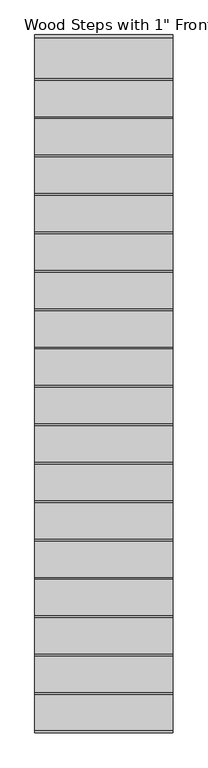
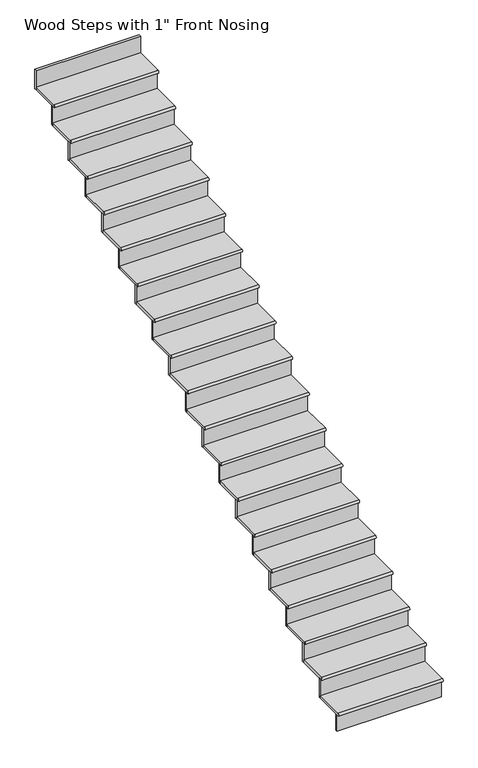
"""IFC4 building model written with IfcOpenShell, lengths in millimetres: stair flight geometry."""

from ifc_helpers import new_model, si_unit, point, frame, frame_2d, origin, place, context, project, spatial, polyline, circle_curve, trimmed, segment, composite_curve, outline, extrude, source, transform, mapped, element, save


def stair_flight_d34ab9c1(model_context):
    return source(origin(), model_context, "Body", "SweptSolid", [
        extrude(outline(composite_curve([segment(polyline([(-5446.3539462, 2025.3157895), (-5179.6539462, 2025.3157895), (-5179.6539462, 1999.9157895), (-5446.3539462, 1999.9157895)]), True, "CONTINUOUS"), segment(trimmed(circle_curve(frame_2d((-5446.3539462, 2012.6157895)), 12.7), [point((-5446.3539462, 1999.9157895))], [point((-5446.3539462, 2025.3157895))], False, "CARTESIAN"), True, "CONTINUOUS")], self_intersect=False)), frame((10889.1370514, 0.0, 0.0), z_axis=(1.0, 0.0, 0.0), x_axis=(0.0, 1.0, 0.0)), (0.0, 0.0, 1.0), 914.4),
        extrude(outline(polyline([(11803.5370514, -5414.6039462), (11803.5370514, -5433.6539462), (10889.1370514, -5433.6539462), (10889.1370514, -5414.6039462), (11803.5370514, -5414.6039462)])), frame((0.0, 0.0, 1847.85), z_axis=(0.0, 0.0, 1.0), x_axis=(1.0, 0.0, 0.0)), (0.0, 0.0, 1.0), 152.0657895),
        extrude(outline(polyline([(11803.5370514, -5160.6039462), (11803.5370514, -5179.6539462), (10889.1370514, -5179.6539462), (10889.1370514, -5160.6039462), (11803.5370514, -5160.6039462)])), frame((0.0, 0.0, 1999.9157895), z_axis=(0.0, 0.0, 1.0), x_axis=(1.0, 0.0, 0.0)), (0.0, 0.0, 1.0), 177.4657895),
        extrude(outline(composite_curve([segment(polyline([(-5192.3539462, 2202.7815789), (-4925.6539462, 2202.7815789), (-4925.6539462, 2177.3815789), (-5192.3539462, 2177.3815789)]), True, "CONTINUOUS"), segment(trimmed(circle_curve(frame_2d((-5192.3539462, 2190.0815789)), 12.7), [point((-5192.3539462, 2177.3815789))], [point((-5192.3539462, 2202.7815789))], False, "CARTESIAN"), True, "CONTINUOUS")], self_intersect=False)), frame((10889.1370514, 0.0, 0.0), z_axis=(1.0, 0.0, 0.0), x_axis=(0.0, 1.0, 0.0)), (0.0, 0.0, 1.0), 914.4),
        extrude(outline(polyline([(11803.5370514, -4906.6039462), (11803.5370514, -4925.6539462), (10889.1370514, -4925.6539462), (10889.1370514, -4906.6039462), (11803.5370514, -4906.6039462)])), frame((0.0, 0.0, 2177.3815789), z_axis=(0.0, 0.0, 1.0), x_axis=(1.0, 0.0, 0.0)), (0.0, 0.0, 1.0), 177.4657895),
        extrude(outline(composite_curve([segment(polyline([(-4938.3539462, 2380.2473684), (-4671.6539462, 2380.2473684), (-4671.6539462, 2354.8473684), (-4938.3539462, 2354.8473684)]), True, "CONTINUOUS"), segment(trimmed(circle_curve(frame_2d((-4938.3539462, 2367.5473684)), 12.7), [point((-4938.3539462, 2354.8473684))], [point((-4938.3539462, 2380.2473684))], False, "CARTESIAN"), True, "CONTINUOUS")], self_intersect=False)), frame((10889.1370514, 0.0, 0.0), z_axis=(1.0, 0.0, 0.0), x_axis=(0.0, 1.0, 0.0)), (0.0, 0.0, 1.0), 914.4),
        extrude(outline(polyline([(11803.5370514, -4652.6039462), (11803.5370514, -4671.6539462), (10889.1370514, -4671.6539462), (10889.1370514, -4652.6039462), (11803.5370514, -4652.6039462)])), frame((0.0, 0.0, 2354.8473684), z_axis=(0.0, 0.0, 1.0), x_axis=(1.0, 0.0, 0.0)), (0.0, 0.0, 1.0), 177.4657895),
        extrude(outline(composite_curve([segment(polyline([(-4684.3539462, 2557.7131579), (-4417.6539462, 2557.7131579), (-4417.6539462, 2532.3131579), (-4684.3539462, 2532.3131579)]), True, "CONTINUOUS"), segment(trimmed(circle_curve(frame_2d((-4684.3539462, 2545.0131579)), 12.7), [point((-4684.3539462, 2532.3131579))], [point((-4684.3539462, 2557.7131579))], False, "CARTESIAN"), True, "CONTINUOUS")], self_intersect=False)), frame((10889.1370514, 0.0, 0.0), z_axis=(1.0, 0.0, 0.0), x_axis=(0.0, 1.0, 0.0)), (0.0, 0.0, 1.0), 914.4),
        extrude(outline(polyline([(11803.5370514, -4398.6039462), (11803.5370514, -4417.6539462), (10889.1370514, -4417.6539462), (10889.1370514, -4398.6039462), (11803.5370514, -4398.6039462)])), frame((0.0, 0.0, 2532.3131579), z_axis=(0.0, 0.0, 1.0), x_axis=(1.0, 0.0, 0.0)), (0.0, 0.0, 1.0), 177.4657895),
        extrude(outline(composite_curve([segment(polyline([(-4430.3539462, 2735.1789474), (-4163.6539462, 2735.1789474), (-4163.6539462, 2709.7789474), (-4430.3539462, 2709.7789474)]), True, "CONTINUOUS"), segment(trimmed(circle_curve(frame_2d((-4430.3539462, 2722.4789474)), 12.7), [point((-4430.3539462, 2709.7789474))], [point((-4430.3539462, 2735.1789474))], False, "CARTESIAN"), True, "CONTINUOUS")], self_intersect=False)), frame((10889.1370514, 0.0, 0.0), z_axis=(1.0, 0.0, 0.0), x_axis=(0.0, 1.0, 0.0)), (0.0, 0.0, 1.0), 914.4),
        extrude(outline(polyline([(11803.5370514, -4144.6039462), (11803.5370514, -4163.6539462), (10889.1370514, -4163.6539462), (10889.1370514, -4144.6039462), (11803.5370514, -4144.6039462)])), frame((0.0, 0.0, 2709.7789474), z_axis=(0.0, 0.0, 1.0), x_axis=(1.0, 0.0, 0.0)), (0.0, 0.0, 1.0), 177.4657895),
        extrude(outline(composite_curve([segment(polyline([(-4176.3539462, 2912.6447368), (-3909.6539462, 2912.6447368), (-3909.6539462, 2887.2447368), (-4176.3539462, 2887.2447368)]), True, "CONTINUOUS"), segment(trimmed(circle_curve(frame_2d((-4176.3539462, 2899.9447368)), 12.7), [point((-4176.3539462, 2887.2447368))], [point((-4176.3539462, 2912.6447368))], False, "CARTESIAN"), True, "CONTINUOUS")], self_intersect=False)), frame((10889.1370514, 0.0, 0.0), z_axis=(1.0, 0.0, 0.0), x_axis=(0.0, 1.0, 0.0)), (0.0, 0.0, 1.0), 914.4),
        extrude(outline(polyline([(11803.5370514, -3890.6039462), (11803.5370514, -3909.6539462), (10889.1370514, -3909.6539462), (10889.1370514, -3890.6039462), (11803.5370514, -3890.6039462)])), frame((0.0, 0.0, 2887.2447368), z_axis=(0.0, 0.0, 1.0), x_axis=(1.0, 0.0, 0.0)), (0.0, 0.0, 1.0), 177.4657895),
        extrude(outline(composite_curve([segment(polyline([(-3922.3539462, 3090.1105263), (-3655.6539462, 3090.1105263), (-3655.6539462, 3064.7105263), (-3922.3539462, 3064.7105263)]), True, "CONTINUOUS"), segment(trimmed(circle_curve(frame_2d((-3922.3539462, 3077.4105263)), 12.7), [point((-3922.3539462, 3064.7105263))], [point((-3922.3539462, 3090.1105263))], False, "CARTESIAN"), True, "CONTINUOUS")], self_intersect=False)), frame((10889.1370514, 0.0, 0.0), z_axis=(1.0, 0.0, 0.0), x_axis=(0.0, 1.0, 0.0)), (0.0, 0.0, 1.0), 914.4),
        extrude(outline(polyline([(11803.5370514, -3636.6039462), (11803.5370514, -3655.6539462), (10889.1370514, -3655.6539462), (10889.1370514, -3636.6039462), (11803.5370514, -3636.6039462)])), frame((0.0, 0.0, 3064.7105263), z_axis=(0.0, 0.0, 1.0), x_axis=(1.0, 0.0, 0.0)), (0.0, 0.0, 1.0), 177.4657895),
        extrude(outline(composite_curve([segment(polyline([(-3668.3539462, 3267.5763158), (-3401.6539462, 3267.5763158), (-3401.6539462, 3242.1763158), (-3668.3539462, 3242.1763158)]), True, "CONTINUOUS"), segment(trimmed(circle_curve(frame_2d((-3668.3539462, 3254.8763158)), 12.7), [point((-3668.3539462, 3242.1763158))], [point((-3668.3539462, 3267.5763158))], False, "CARTESIAN"), True, "CONTINUOUS")], self_intersect=False)), frame((10889.1370514, 0.0, 0.0), z_axis=(1.0, 0.0, 0.0), x_axis=(0.0, 1.0, 0.0)), (0.0, 0.0, 1.0), 914.4),
        extrude(outline(polyline([(11803.5370514, -3382.6039462), (11803.5370514, -3401.6539462), (10889.1370514, -3401.6539462), (10889.1370514, -3382.6039462), (11803.5370514, -3382.6039462)])), frame((0.0, 0.0, 3242.1763158), z_axis=(0.0, 0.0, 1.0), x_axis=(1.0, 0.0, 0.0)), (0.0, 0.0, 1.0), 177.4657895),
        extrude(outline(composite_curve([segment(polyline([(-3414.3539462, 3445.0421053), (-3147.6539462, 3445.0421053), (-3147.6539462, 3419.6421053), (-3414.3539462, 3419.6421053)]), True, "CONTINUOUS"), segment(trimmed(circle_curve(frame_2d((-3414.3539462, 3432.3421053)), 12.7), [point((-3414.3539462, 3419.6421053))], [point((-3414.3539462, 3445.0421053))], False, "CARTESIAN"), True, "CONTINUOUS")], self_intersect=False)), frame((10889.1370514, 0.0, 0.0), z_axis=(1.0, 0.0, 0.0), x_axis=(0.0, 1.0, 0.0)), (0.0, 0.0, 1.0), 914.4),
        extrude(outline(polyline([(11803.5370514, -3128.6039462), (11803.5370514, -3147.6539462), (10889.1370514, -3147.6539462), (10889.1370514, -3128.6039462), (11803.5370514, -3128.6039462)])), frame((0.0, 0.0, 3419.6421053), z_axis=(0.0, 0.0, 1.0), x_axis=(1.0, 0.0, 0.0)), (0.0, 0.0, 1.0), 177.4657895),
        extrude(outline(composite_curve([segment(polyline([(-3160.3539462, 3622.5078947), (-2893.6539462, 3622.5078947), (-2893.6539462, 3597.1078947), (-3160.3539462, 3597.1078947)]), True, "CONTINUOUS"), segment(trimmed(circle_curve(frame_2d((-3160.3539462, 3609.8078947)), 12.7), [point((-3160.3539462, 3597.1078947))], [point((-3160.3539462, 3622.5078947))], False, "CARTESIAN"), True, "CONTINUOUS")], self_intersect=False)), frame((10889.1370514, 0.0, 0.0), z_axis=(1.0, 0.0, 0.0), x_axis=(0.0, 1.0, 0.0)), (0.0, 0.0, 1.0), 914.4),
        extrude(outline(polyline([(11803.5370514, -2874.6039462), (11803.5370514, -2893.6539462), (10889.1370514, -2893.6539462), (10889.1370514, -2874.6039462), (11803.5370514, -2874.6039462)])), frame((0.0, 0.0, 3597.1078947), z_axis=(0.0, 0.0, 1.0), x_axis=(1.0, 0.0, 0.0)), (0.0, 0.0, 1.0), 177.4657895),
        extrude(outline(composite_curve([segment(polyline([(-2906.3539462, 3799.9736842), (-2639.6539462, 3799.9736842), (-2639.6539462, 3774.5736842), (-2906.3539462, 3774.5736842)]), True, "CONTINUOUS"), segment(trimmed(circle_curve(frame_2d((-2906.3539462, 3787.2736842)), 12.7), [point((-2906.3539462, 3774.5736842))], [point((-2906.3539462, 3799.9736842))], False, "CARTESIAN"), True, "CONTINUOUS")], self_intersect=False)), frame((10889.1370514, 0.0, 0.0), z_axis=(1.0, 0.0, 0.0), x_axis=(0.0, 1.0, 0.0)), (0.0, 0.0, 1.0), 914.4),
        extrude(outline(polyline([(11803.5370514, -2620.6039462), (11803.5370514, -2639.6539462), (10889.1370514, -2639.6539462), (10889.1370514, -2620.6039462), (11803.5370514, -2620.6039462)])), frame((0.0, 0.0, 3774.5736842), z_axis=(0.0, 0.0, 1.0), x_axis=(1.0, 0.0, 0.0)), (0.0, 0.0, 1.0), 177.4657895),
        extrude(outline(composite_curve([segment(polyline([(-2652.3539462, 3977.4394737), (-2385.6539462, 3977.4394737), (-2385.6539462, 3952.0394737), (-2652.3539462, 3952.0394737)]), True, "CONTINUOUS"), segment(trimmed(circle_curve(frame_2d((-2652.3539462, 3964.7394737)), 12.7), [point((-2652.3539462, 3952.0394737))], [point((-2652.3539462, 3977.4394737))], False, "CARTESIAN"), True, "CONTINUOUS")], self_intersect=False)), frame((10889.1370514, 0.0, 0.0), z_axis=(1.0, 0.0, 0.0), x_axis=(0.0, 1.0, 0.0)), (0.0, 0.0, 1.0), 914.4),
        extrude(outline(polyline([(11803.5370514, -2366.6039462), (11803.5370514, -2385.6539462), (10889.1370514, -2385.6539462), (10889.1370514, -2366.6039462), (11803.5370514, -2366.6039462)])), frame((0.0, 0.0, 3952.0394737), z_axis=(0.0, 0.0, 1.0), x_axis=(1.0, 0.0, 0.0)), (0.0, 0.0, 1.0), 177.4657895),
        extrude(outline(composite_curve([segment(polyline([(-2398.3539462, 4154.9052632), (-2131.6539462, 4154.9052632), (-2131.6539462, 4129.5052632), (-2398.3539462, 4129.5052632)]), True, "CONTINUOUS"), segment(trimmed(circle_curve(frame_2d((-2398.3539462, 4142.2052632)), 12.7), [point((-2398.3539462, 4129.5052632))], [point((-2398.3539462, 4154.9052632))], False, "CARTESIAN"), True, "CONTINUOUS")], self_intersect=False)), frame((10889.1370514, 0.0, 0.0), z_axis=(1.0, 0.0, 0.0), x_axis=(0.0, 1.0, 0.0)), (0.0, 0.0, 1.0), 914.4),
        extrude(outline(polyline([(11803.5370514, -2112.6039462), (11803.5370514, -2131.6539462), (10889.1370514, -2131.6539462), (10889.1370514, -2112.6039462), (11803.5370514, -2112.6039462)])), frame((0.0, 0.0, 4129.5052632), z_axis=(0.0, 0.0, 1.0), x_axis=(1.0, 0.0, 0.0)), (0.0, 0.0, 1.0), 177.4657895),
        extrude(outline(composite_curve([segment(polyline([(-2144.3539462, 4332.3710526), (-1877.6539462, 4332.3710526), (-1877.6539462, 4306.9710526), (-2144.3539462, 4306.9710526)]), True, "CONTINUOUS"), segment(trimmed(circle_curve(frame_2d((-2144.3539462, 4319.6710526)), 12.7), [point((-2144.3539462, 4306.9710526))], [point((-2144.3539462, 4332.3710526))], False, "CARTESIAN"), True, "CONTINUOUS")], self_intersect=False)), frame((10889.1370514, 0.0, 0.0), z_axis=(1.0, 0.0, 0.0), x_axis=(0.0, 1.0, 0.0)), (0.0, 0.0, 1.0), 914.4),
        extrude(outline(polyline([(11803.5370514, -1858.6039462), (11803.5370514, -1877.6539462), (10889.1370514, -1877.6539462), (10889.1370514, -1858.6039462), (11803.5370514, -1858.6039462)])), frame((0.0, 0.0, 4306.9710526), z_axis=(0.0, 0.0, 1.0), x_axis=(1.0, 0.0, 0.0)), (0.0, 0.0, 1.0), 177.4657895),
        extrude(outline(composite_curve([segment(polyline([(-1890.3539462, 4509.8368421), (-1623.6539462, 4509.8368421), (-1623.6539462, 4484.4368421), (-1890.3539462, 4484.4368421)]), True, "CONTINUOUS"), segment(trimmed(circle_curve(frame_2d((-1890.3539462, 4497.1368421)), 12.7), [point((-1890.3539462, 4484.4368421))], [point((-1890.3539462, 4509.8368421))], False, "CARTESIAN"), True, "CONTINUOUS")], self_intersect=False)), frame((10889.1370514, 0.0, 0.0), z_axis=(1.0, 0.0, 0.0), x_axis=(0.0, 1.0, 0.0)), (0.0, 0.0, 1.0), 914.4),
        extrude(outline(polyline([(11803.5370514, -1604.6039462), (11803.5370514, -1623.6539462), (10889.1370514, -1623.6539462), (10889.1370514, -1604.6039462), (11803.5370514, -1604.6039462)])), frame((0.0, 0.0, 4484.4368421), z_axis=(0.0, 0.0, 1.0), x_axis=(1.0, 0.0, 0.0)), (0.0, 0.0, 1.0), 177.4657895),
        extrude(outline(composite_curve([segment(polyline([(-1636.3539462, 4687.3026316), (-1369.6539462, 4687.3026316), (-1369.6539462, 4661.9026316), (-1636.3539462, 4661.9026316)]), True, "CONTINUOUS"), segment(trimmed(circle_curve(frame_2d((-1636.3539462, 4674.6026316)), 12.7), [point((-1636.3539462, 4661.9026316))], [point((-1636.3539462, 4687.3026316))], False, "CARTESIAN"), True, "CONTINUOUS")], self_intersect=False)), frame((10889.1370514, 0.0, 0.0), z_axis=(1.0, 0.0, 0.0), x_axis=(0.0, 1.0, 0.0)), (0.0, 0.0, 1.0), 914.4),
        extrude(outline(polyline([(11803.5370514, -1350.6039462), (11803.5370514, -1369.6539462), (10889.1370514, -1369.6539462), (10889.1370514, -1350.6039462), (11803.5370514, -1350.6039462)])), frame((0.0, 0.0, 4661.9026316), z_axis=(0.0, 0.0, 1.0), x_axis=(1.0, 0.0, 0.0)), (0.0, 0.0, 1.0), 177.4657895),
        extrude(outline(composite_curve([segment(polyline([(-1382.3539462, 4864.7684211), (-1115.6539462, 4864.7684211), (-1115.6539462, 4839.3684211), (-1382.3539462, 4839.3684211)]), True, "CONTINUOUS"), segment(trimmed(circle_curve(frame_2d((-1382.3539462, 4852.0684211)), 12.7), [point((-1382.3539462, 4839.3684211))], [point((-1382.3539462, 4864.7684211))], False, "CARTESIAN"), True, "CONTINUOUS")], self_intersect=False)), frame((10889.1370514, 0.0, 0.0), z_axis=(1.0, 0.0, 0.0), x_axis=(0.0, 1.0, 0.0)), (0.0, 0.0, 1.0), 914.4),
        extrude(outline(polyline([(11803.5370514, -1096.6039462), (11803.5370514, -1115.6539462), (10889.1370514, -1115.6539462), (10889.1370514, -1096.6039462), (11803.5370514, -1096.6039462)])), frame((0.0, 0.0, 4839.3684211), z_axis=(0.0, 0.0, 1.0), x_axis=(1.0, 0.0, 0.0)), (0.0, 0.0, 1.0), 177.4657895),
        extrude(outline(polyline([(11803.5370514, -842.6039462), (11803.5370514, -861.6539462), (10889.1370514, -861.6539462), (10889.1370514, -842.6039462), (11803.5370514, -842.6039462)])), frame((0.0, 0.0, 5016.8342105), z_axis=(0.0, 0.0, 1.0), x_axis=(1.0, 0.0, 0.0)), (0.0, 0.0, 1.0), 177.4657895),
        extrude(outline(composite_curve([segment(polyline([(-1128.3539462, 5042.2342105), (-861.6539462, 5042.2342105), (-861.6539462, 5016.8342105), (-1128.3539462, 5016.8342105)]), True, "CONTINUOUS"), segment(trimmed(circle_curve(frame_2d((-1128.3539462, 5029.5342105)), 12.7), [point((-1128.3539462, 5016.8342105))], [point((-1128.3539462, 5042.2342105))], False, "CARTESIAN"), True, "CONTINUOUS")], self_intersect=False)), frame((10889.1370514, 0.0, 0.0), z_axis=(1.0, 0.0, 0.0), x_axis=(0.0, 1.0, 0.0)), (0.0, 0.0, 1.0), 914.4),
    ])


if __name__ == "__main__":
    model = new_model("IFC4")
    model_context = context("Model", 3, world=origin())
    ifc_project = project(units=[si_unit("LENGTHUNIT", "METRE", prefix="MILLI")], contexts=[model_context])
    site = spatial("IfcSite", under=ifc_project)
    building = spatial("IfcBuilding", under=site)
    placement = place(None, origin())
    stair_flight_shape = stair_flight_d34ab9c1(model_context)
    element("IfcStairFlight", 1, ObjectType="Wood Steps with 1\" Front Nosing", at=placement, inside=building, context=model_context, shape_type="MappedRepresentation", body=[
        mapped(stair_flight_shape, transform((0.0, 0.0, 0.0), x_axis=(1.0, 0.0, 0.0), y_axis=(0.0, 1.0, 0.0), z_axis=(0.0, 0.0, 1.0))),
    ])
    save(model, "model.ifc")
